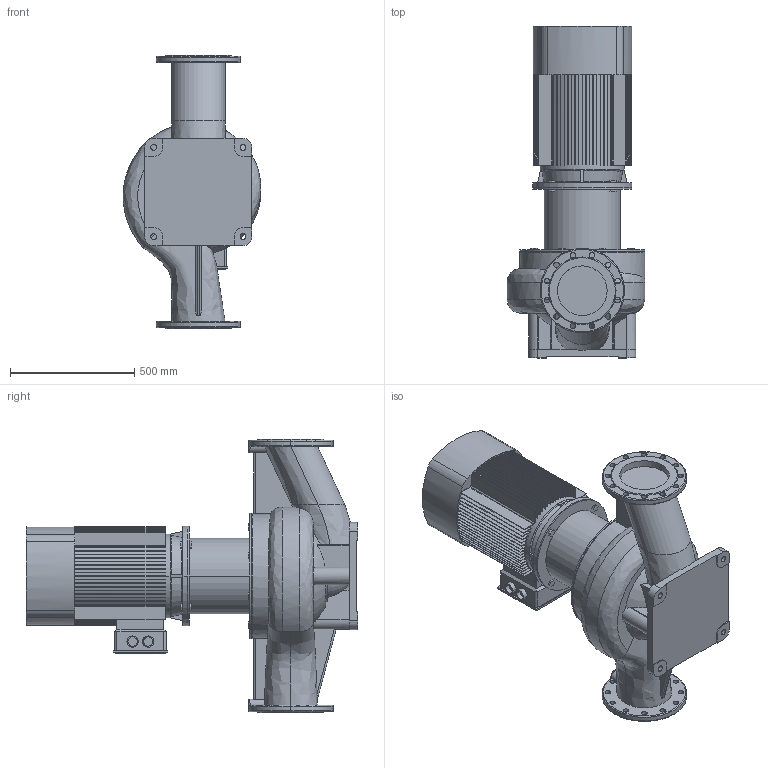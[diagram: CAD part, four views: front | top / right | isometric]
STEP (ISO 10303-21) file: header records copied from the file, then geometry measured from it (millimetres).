
FILE_DESCRIPTION (( 'STEP AP203' ), '1' );
FILE_NAME ('TD200-24_4.STEP', '2022-05-02T17:37:00', ( '' ), ( '' ), 'SwSTEP 2.0', 'SolidWorks 2019', '' );
FILE_SCHEMA (( 'CONFIG_CONTROL_DESIGN' ));
Length unit declared in the file: millimetre
Products named in the file (4): ED_B5_YE2-200L-4 (30); TD200-24_4; Fon_200_TD200-24_4; Pr_ch 200_TD200-24_4
Assembly tree (3 placements, depth 2):
  TD200-24_4
    Pr_ch 200_TD200-24_4
    Fon_200_TD200-24_4
    ED_B5_YE2-200L-4 (30)
Bounding box: 555.66 x 1337 x 1100 mm (x, y, z)
Volume: 175993789.7 mm3; surface area: 5975358.2 mm2
Topology: 5 solids, 7 shells, 752 faces, 2080 edges, 1380 vertices
Faces by surface type: plane 497, cylinder 183, torus 33, bspline 22, cone 17
Entity records: 33188 total; most frequent: CARTESIAN_POINT 13103, ORIENTED_EDGE 4160, DIRECTION 4106, EDGE_CURVE 2080, AXIS2_PLACEMENT_3D 1437, VERTEX_POINT 1380, LINE 1232, VECTOR 1232
